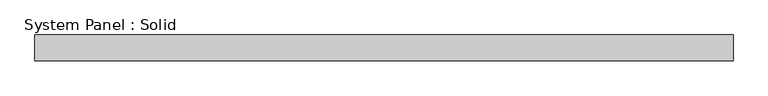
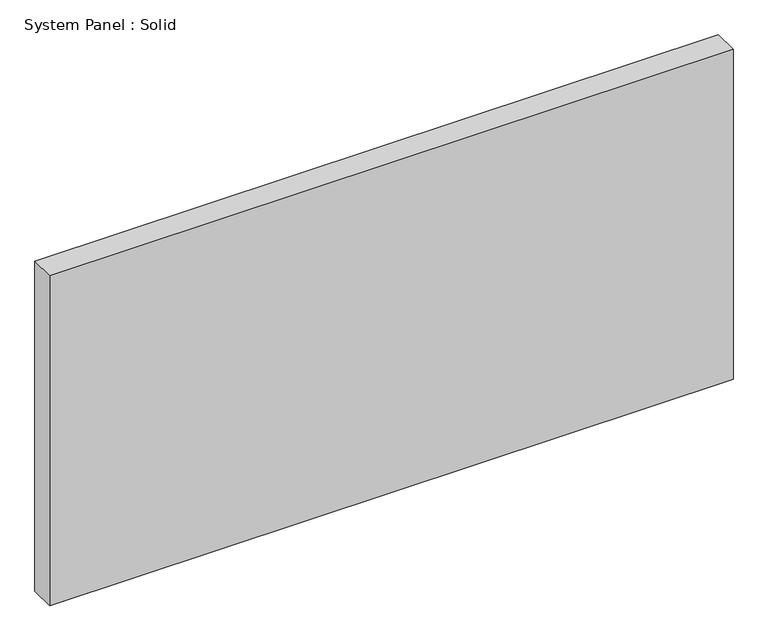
"""IFC4 building model written with IfcOpenShell, lengths in millimetres: plate geometry, System Panel : Solid."""

from ifc_helpers import new_model, si_unit, origin, origin_with_axes, place, context, project, spatial, polyline, outline, extrude, source, transform, mapped, element, save


def system_panel_solid_5893c934(model_context):
    return source(origin(), model_context, "Body", "SweptSolid", [
        extrude(outline(polyline([(855.4684602, -19.05), (-855.4684602, -19.05), (-855.4684602, 44.45), (855.4684602, 44.45), (855.4684602, -19.05)])), origin_with_axes(), (0.0, 0.0, 1.0), 873.1346896),
    ])


if __name__ == "__main__":
    model = new_model("IFC4")
    model_context = context("Model", 3, world=origin())
    ifc_project = project(units=[si_unit("LENGTHUNIT", "METRE", prefix="MILLI")], contexts=[model_context])
    site = spatial("IfcSite", under=ifc_project)
    building = spatial("IfcBuilding", under=site)
    placement = place(None, origin())
    system_panel_solid_shape = system_panel_solid_5893c934(model_context)
    element("IfcPlate", 1, ObjectType="System Panel : Solid", at=placement, inside=building, context=model_context, shape_type="MappedRepresentation", body=[
        mapped(system_panel_solid_shape, transform((0.0, 0.0, 0.0), x_axis=(1.0, 0.0, 0.0), y_axis=(0.0, 1.0, 0.0), z_axis=(0.0, 0.0, 1.0))),
    ])
    save(model, "model.ifc")
